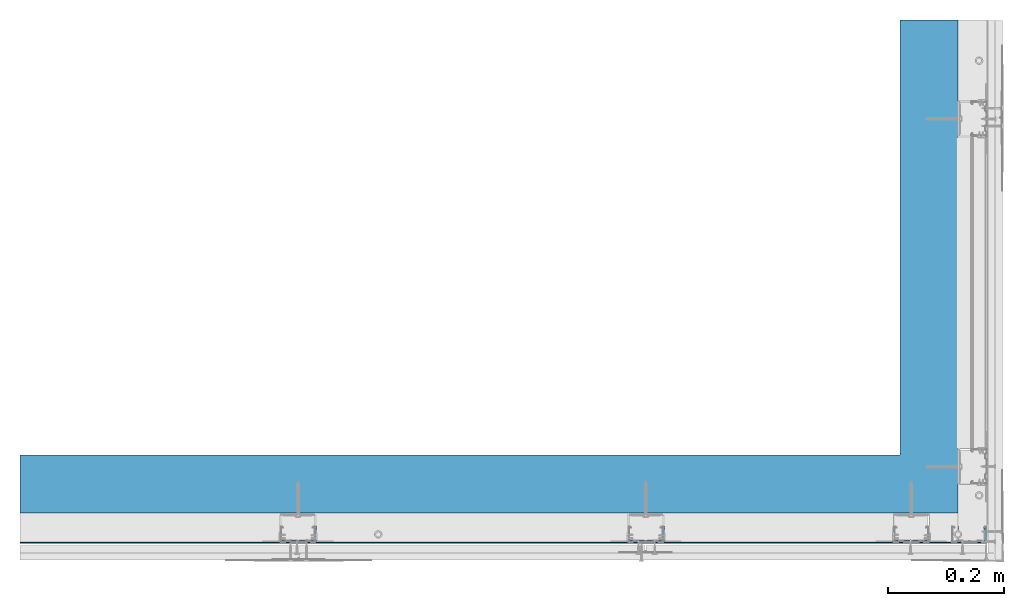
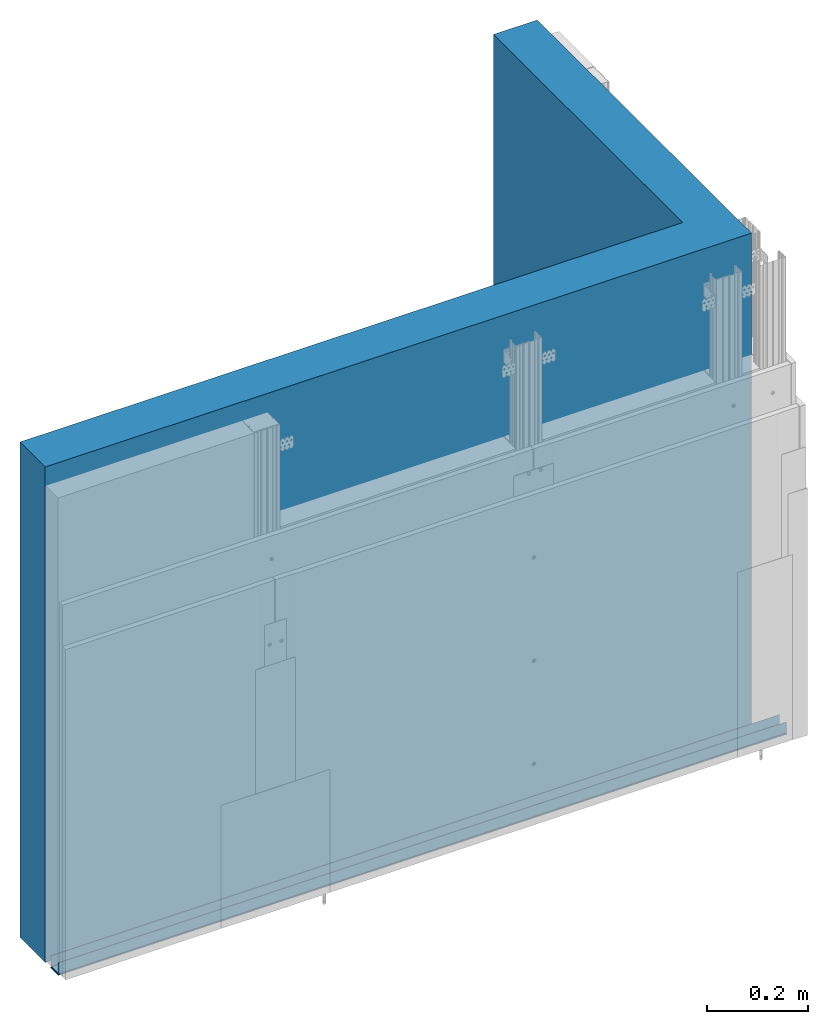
# One storey, part 1 of 56: 3 walls.
"""IFC2X3 building model written with IfcOpenShell, lengths in millimetres."""

from ifc_helpers import new_model, entity, si_unit, converted_unit, direction, frame, origin, origin_with_axes, place, context, project, spatial, faceted_brep, element, save


model = new_model("IFC2X3")

# Units and contexts
model_context = context("Model", 3, precision=1e-05, world=origin(), true_north=direction((0.0, 1.0, 0.0)))
ifc_project = project(units=[si_unit("LENGTHUNIT", "METRE", prefix="MILLI"), si_unit("AREAUNIT", "SQUARE_METRE"), si_unit("VOLUMEUNIT", "CUBIC_METRE"), converted_unit("PLANEANGLEUNIT", "DEGREE", entity("IfcPlaneAngleMeasure", 0.01745), si_unit("PLANEANGLEUNIT", "RADIAN"), dimensions=[0, 0, 0, 0, 0, 0, 0]), si_unit("SOLIDANGLEUNIT", "STERADIAN"), si_unit("MASSUNIT", "GRAM"), si_unit("TIMEUNIT", "SECOND"), si_unit("THERMODYNAMICTEMPERATUREUNIT", "DEGREE_CELSIUS"), si_unit("LUMINOUSINTENSITYUNIT", "LUMEN")], contexts=[model_context])

# Site, building, storey
site_placement = place(None, origin_with_axes())
site = spatial("IfcSite", under=ifc_project, at=site_placement, Name="Default Site", CompositionType="ELEMENT")
building_placement = place(site_placement, origin_with_axes())
building = spatial("IfcBuilding", under=site, at=building_placement, Name="Default Building", CompositionType="ELEMENT")
storey_placement = place(building_placement, origin_with_axes())
storey = spatial("IfcBuildingStorey", under=building, at=storey_placement, Name="Default Building Storey", CompositionType="ELEMENT", Elevation=0.0)

# Walls
wall_1_placement = place(storey_placement, frame((2351.114255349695, 5432.424146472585, 6.584025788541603), z_axis=(-7.620176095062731e-14, -6.858158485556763e-13, 1.0), x_axis=(-1.0, -9.714451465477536e-17, -7.62017609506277e-14)))
element("IfcWall", 1, at=wall_1_placement, inside=storey, Name="ŚCIANA", context=model_context, shape_type="Brep", body=[
    faceted_brep([(-1291.926362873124, 3310.28322372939, -4.200000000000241), (-1291.926362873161, 3310.283223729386, 1195.799999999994), (-1291.926362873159, 2559.407642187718, 1195.799999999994), (-1291.926362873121, 2559.407642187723, -4.200000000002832), (-1391.926362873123, 2559.407642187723, -4.200000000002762), (-1391.926362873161, 2559.407642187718, 1195.800000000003), (-1391.926362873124, 3410.28322372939, -4.20000000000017), (226.0891218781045, 3410.28322372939, -4.200000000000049), (226.0891218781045, 3310.283223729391, -4.200000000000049), (226.0891218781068, 3410.28322372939, 1195.799999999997), (-1391.926362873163, 3410.28322372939, 1195.8), (226.0891218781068, 3310.283223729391, 1195.799999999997)], [[[0, 1, 2, 3]], [[4, 3, 2, 5]], [[6, 7, 8, 0, 3, 4]], [[9, 10, 5, 2, 1, 11]], [[11, 1, 0, 8]], [[11, 8, 7, 9]], [[6, 10, 9, 7]], [[6, 4, 5, 10]]]),
])
wall_2_placement = place(storey_placement, frame((5286.482303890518, 3469.154591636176, -108.5909742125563), z_axis=(-6.965832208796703e-14, -6.858158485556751e-13, 1.0), x_axis=(-1.0, -1.761044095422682e-15, -8.335986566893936e-14)))
element("IfcWall", 2, at=wall_2_placement, inside=storey, Name="Profil RIGIPS UD30 ULTRASTIL®", context=model_context, shape_type="Brep", body=[
    faceted_brep([(3161.457170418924, 1469.916032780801, 140.9749999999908), (3161.457170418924, 1469.366032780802, 140.9749999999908), (3161.457170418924, 1469.366032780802, 114.774999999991), (3161.457170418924, 1469.375882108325, 114.6498524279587), (3161.457170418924, 1469.405187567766, 114.5277864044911), (3161.457170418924, 1469.453227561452, 114.4118076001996), (3161.457170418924, 1469.518819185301, 114.3047717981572), (3161.457170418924, 1469.600347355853, 114.2093145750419), (3161.457170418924, 1469.695804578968, 114.1277864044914), (3161.457170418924, 1469.80284038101, 114.0621947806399), (3161.457170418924, 1469.918819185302, 114.0141547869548), (3161.457170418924, 1470.04088520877, 113.9848493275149), (3161.457170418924, 1470.166032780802, 113.9749999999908), (3161.457170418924, 1472.016032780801, 113.9749999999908), (3161.457170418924, 1472.163550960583, 113.9887186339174), (3161.457170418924, 1472.3060097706, 114.0294040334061), (3161.457170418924, 1472.438523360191, 114.0956608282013), (3161.457170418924, 1472.556546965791, 114.1852166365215), (3161.457170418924, 1472.656032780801, 114.2949999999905), (3161.457170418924, 1473.676032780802, 115.6549999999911), (3161.457170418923, 1473.775518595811, 115.7647833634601), (3161.457170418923, 1473.893542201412, 115.8543391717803), (3161.457170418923, 1474.026055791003, 115.9205959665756), (3161.457170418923, 1474.16851460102, 115.9612813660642), (3161.457170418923, 1474.316032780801, 115.9749999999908), (3161.457170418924, 1493.616032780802, 115.9749999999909), (3161.457170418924, 1493.763550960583, 115.9612813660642), (3161.457170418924, 1493.9060097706, 115.9205959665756), (3161.457170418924, 1494.03852336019, 115.8543391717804), (3161.457170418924, 1494.156546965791, 115.7647833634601), (3161.457170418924, 1494.256032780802, 115.6549999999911), (3161.457170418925, 1495.276032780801, 114.2949999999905), (3161.457170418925, 1495.375518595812, 114.1852166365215), (3161.457170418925, 1495.493542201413, 114.0956608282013), (3161.457170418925, 1495.626055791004, 114.0294040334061), (3161.457170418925, 1495.76851460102, 113.9887186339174), (3161.457170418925, 1495.916032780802, 113.9749999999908), (3161.457170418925, 1497.766032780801, 113.9749999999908), (3161.457170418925, 1497.891180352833, 113.9848493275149), (3161.457170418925, 1498.013246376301, 114.0141547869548), (3161.457170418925, 1498.129225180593, 114.0621947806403), (3161.457170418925, 1498.236260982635, 114.127786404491), (3161.457170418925, 1498.33171820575, 114.2093145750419), (3161.457170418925, 1498.413246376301, 114.3047717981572), (3161.457170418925, 1498.478838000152, 114.4118076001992), (3161.457170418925, 1498.526877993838, 114.5277864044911), (3161.457170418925, 1498.556183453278, 114.6498524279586), (3161.457170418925, 1498.566032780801, 114.774999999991), (3161.457170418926, 1498.566032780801, 140.9749999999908), (3161.457170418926, 1498.016032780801, 140.9749999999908), (3161.457170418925, 1498.016032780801, 114.774999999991), (3161.457170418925, 1498.01295486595, 114.7358913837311), (3161.457170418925, 1498.003796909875, 114.6977457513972), (3161.457170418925, 1497.988784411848, 114.661502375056), (3161.457170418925, 1497.968287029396, 114.6280536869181), (3161.457170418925, 1497.942809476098, 114.5982233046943), (3161.457170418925, 1497.912979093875, 114.5727457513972), (3161.457170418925, 1497.879530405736, 114.5522483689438), (3161.457170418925, 1497.843287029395, 114.5372358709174), (3161.457170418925, 1497.805141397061, 114.528077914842), (3161.457170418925, 1497.766032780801, 114.524999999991), (3161.457170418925, 1495.916032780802, 114.524999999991), (3161.457170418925, 1495.86993334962, 114.5292870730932), (3161.457170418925, 1495.82541497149, 114.5420012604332), (3161.457170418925, 1495.784004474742, 114.562706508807), (3161.457170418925, 1495.747122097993, 114.5906926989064), (3161.457170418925, 1495.716032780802, 114.6249999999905), (3161.457170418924, 1494.696032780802, 115.984999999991), (3161.457170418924, 1494.528150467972, 116.1702594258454), (3161.457170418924, 1494.32898563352, 116.3213848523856), (3161.457170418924, 1494.105368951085, 116.4331931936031), (3161.457170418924, 1493.864969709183, 116.5018498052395), (3161.457170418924, 1493.616032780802, 116.5249999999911), (3161.457170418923, 1474.316032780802, 116.524999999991), (3161.457170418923, 1474.06709585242, 116.5018498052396), (3161.457170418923, 1473.826696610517, 116.4331931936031), (3161.457170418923, 1473.603079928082, 116.3213848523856), (3161.457170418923, 1473.403915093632, 116.1702594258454), (3161.457170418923, 1473.236032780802, 115.984999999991), (3161.457170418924, 1472.216032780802, 114.6249999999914), (3161.457170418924, 1472.184943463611, 114.5906926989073), (3161.457170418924, 1472.14806108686, 114.562706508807), (3161.457170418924, 1472.106650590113, 114.5420012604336), (3161.457170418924, 1472.062132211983, 114.5292870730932), (3161.457170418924, 1472.016032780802, 114.524999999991), (3161.457170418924, 1470.166032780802, 114.524999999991), (3161.457170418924, 1470.126924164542, 114.528077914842), (3161.457170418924, 1470.088778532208, 114.5372358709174), (3161.457170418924, 1470.052535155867, 114.5522483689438), (3161.457170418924, 1470.019086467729, 114.5727457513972), (3161.457170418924, 1469.989256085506, 114.5982233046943), (3161.457170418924, 1469.963778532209, 114.6280536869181), (3161.457170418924, 1469.943281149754, 114.661502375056), (3161.457170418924, 1469.928268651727, 114.6977457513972), (3161.457170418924, 1469.919110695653, 114.7358913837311), (3161.457170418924, 1469.916032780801, 114.774999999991), (1493.254973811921, 1469.366032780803, 114.7750000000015), (1493.254973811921, 1469.366032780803, 140.9750000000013), (1493.254973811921, 1469.916032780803, 140.9750000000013), (1493.254973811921, 1469.916032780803, 114.7750000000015), (1493.254973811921, 1469.919110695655, 114.7358913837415), (1493.254973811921, 1469.92826865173, 114.6977457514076), (1493.254973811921, 1469.943281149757, 114.6615023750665), (1493.254973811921, 1469.963778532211, 114.6280536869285), (1493.254973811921, 1469.989256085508, 114.5982233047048), (1493.254973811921, 1470.019086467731, 114.5727457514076), (1493.254973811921, 1470.052535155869, 114.5522483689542), (1493.254973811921, 1470.08877853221, 114.5372358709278), (1493.254973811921, 1470.126924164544, 114.5280779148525), (1493.254973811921, 1470.166032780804, 114.5250000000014), (1493.254973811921, 1472.016032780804, 114.5250000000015), (1493.254973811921, 1472.062132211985, 114.5292870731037), (1493.254973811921, 1472.106650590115, 114.542001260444), (1493.254973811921, 1472.148061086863, 114.5627065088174), (1493.254973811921, 1472.184943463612, 114.5906926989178), (1493.254973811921, 1472.216032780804, 114.6250000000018), (1493.254973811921, 1473.236032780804, 115.9850000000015), (1493.254973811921, 1473.403915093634, 116.1702594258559), (1493.254973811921, 1473.603079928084, 116.321384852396), (1493.254973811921, 1473.826696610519, 116.4331931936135), (1493.254973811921, 1474.067095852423, 116.50184980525), (1493.254973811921, 1474.316032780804, 116.5250000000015), (1493.254973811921, 1493.616032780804, 116.5250000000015), (1493.254973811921, 1493.864969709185, 116.50184980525), (1493.254973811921, 1494.105368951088, 116.4331931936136), (1493.254973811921, 1494.328985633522, 116.321384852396), (1493.254973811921, 1494.528150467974, 116.1702594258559), (1493.254973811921, 1494.696032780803, 115.9850000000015), (1493.254973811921, 1495.716032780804, 114.6250000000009), (1493.254973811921, 1495.747122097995, 114.5906926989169), (1493.254973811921, 1495.784004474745, 114.5627065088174), (1493.254973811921, 1495.825414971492, 114.5420012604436), (1493.254973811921, 1495.869933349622, 114.5292870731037), (1493.254973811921, 1495.916032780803, 114.5250000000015), (1493.254973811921, 1497.766032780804, 114.5250000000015), (1493.254973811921, 1497.805141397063, 114.5280779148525), (1493.254973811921, 1497.843287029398, 114.5372358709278), (1493.254973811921, 1497.879530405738, 114.5522483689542), (1493.254973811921, 1497.912979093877, 114.5727457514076), (1493.254973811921, 1497.9428094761, 114.5982233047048), (1493.254973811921, 1497.968287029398, 114.6280536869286), (1493.254973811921, 1497.98878441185, 114.6615023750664), (1493.254973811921, 1498.003796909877, 114.6977457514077), (1493.254973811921, 1498.012954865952, 114.7358913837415), (1493.254973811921, 1498.016032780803, 114.7750000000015), (1493.254973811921, 1498.016032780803, 140.9750000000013), (1493.254973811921, 1498.566032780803, 140.9750000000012), (1493.254973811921, 1498.566032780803, 114.7750000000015), (1493.254973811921, 1498.556183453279, 114.6498524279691), (1493.254973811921, 1498.52687799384, 114.5277864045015), (1493.254973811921, 1498.478838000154, 114.4118076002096), (1493.254973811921, 1498.413246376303, 114.3047717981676), (1493.254973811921, 1498.331718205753, 114.2093145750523), (1493.254973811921, 1498.236260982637, 114.1277864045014), (1493.254973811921, 1498.129225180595, 114.0621947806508), (1493.254973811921, 1498.013246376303, 114.0141547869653), (1493.254973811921, 1497.891180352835, 113.9848493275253), (1493.254973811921, 1497.766032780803, 113.9750000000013), (1493.254973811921, 1495.916032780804, 113.9750000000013), (1493.254973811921, 1495.768514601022, 113.9887186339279), (1493.254973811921, 1495.626055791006, 114.0294040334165), (1493.254973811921, 1495.493542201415, 114.0956608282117), (1493.254973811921, 1495.375518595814, 114.185216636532), (1493.254973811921, 1495.276032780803, 114.295000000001), (1493.254973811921, 1494.256032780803, 115.6550000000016), (1493.254973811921, 1494.156546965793, 115.7647833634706), (1493.254973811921, 1494.038523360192, 115.8543391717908), (1493.254973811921, 1493.906009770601, 115.920595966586), (1493.254973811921, 1493.763550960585, 115.9612813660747), (1493.254973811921, 1493.616032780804, 115.9750000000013), (1493.254973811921, 1474.316032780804, 115.9750000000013), (1493.254973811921, 1474.168514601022, 115.9612813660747), (1493.254973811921, 1474.026055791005, 115.920595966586), (1493.254973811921, 1473.893542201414, 115.8543391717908), (1493.254973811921, 1473.775518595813, 115.7647833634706), (1493.254973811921, 1473.676032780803, 115.6550000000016), (1493.254973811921, 1472.656032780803, 114.295000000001), (1493.254973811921, 1472.556546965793, 114.185216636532), (1493.254973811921, 1472.438523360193, 114.0956608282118), (1493.254973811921, 1472.306009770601, 114.0294040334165), (1493.254973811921, 1472.163550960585, 113.9887186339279), (1493.254973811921, 1472.016032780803, 113.9750000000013), (1493.254973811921, 1470.166032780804, 113.9750000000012), (1493.254973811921, 1470.040885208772, 113.9848493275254), (1493.254973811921, 1469.918819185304, 114.0141547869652), (1493.254973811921, 1469.802840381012, 114.0621947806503), (1493.254973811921, 1469.69580457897, 114.1277864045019), (1493.254973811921, 1469.600347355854, 114.2093145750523), (1493.254973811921, 1469.518819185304, 114.3047717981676), (1493.254973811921, 1469.453227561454, 114.4118076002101), (1493.254973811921, 1469.405187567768, 114.5277864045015), (1493.254973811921, 1469.375882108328, 114.6498524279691)], [[[0, 1, 2, 3, 4, 5, 6, 7, 8, 9, 10, 11, 12, 13, 14, 15, 16, 17, 18, 19, 20, 21, 22, 23, 24, 25, 26, 27, 28, 29, 30, 31, 32, 33, 34, 35, 36, 37, 38, 39, 40, 41, 42, 43, 44, 45, 46, 47, 48, 49, 50, 51, 52, 53, 54, 55, 56, 57, 58, 59, 60, 61, 62, 63, 64, 65, 66, 67, 68, 69, 70, 71, 72, 73, 74, 75, 76, 77, 78, 79, 80, 81, 82, 83, 84, 85, 86, 87, 88, 89, 90, 91, 92, 93, 94, 95]], [[96, 97, 98, 99, 100, 101, 102, 103, 104, 105, 106, 107, 108, 109, 110, 111, 112, 113, 114, 115, 116, 117, 118, 119, 120, 121, 122, 123, 124, 125, 126, 127, 128, 129, 130, 131, 132, 133, 134, 135, 136, 137, 138, 139, 140, 141, 142, 143, 144, 145, 146, 147, 148, 149, 150, 151, 152, 153, 154, 155, 156, 157, 158, 159, 160, 161, 162, 163, 164, 165, 166, 167, 168, 169, 170, 171, 172, 173, 174, 175, 176, 177, 178, 179, 180, 181, 182, 183, 184, 185, 186, 187, 188, 189, 190, 191]], [[23, 171, 170, 24]], [[22, 172, 171, 23]], [[175, 174, 20, 19]], [[172, 22, 21, 173]], [[20, 174, 173, 21]], [[24, 170, 169, 25]], [[29, 165, 164, 30]], [[165, 29, 28, 166]], [[27, 167, 166, 28]], [[169, 168, 26, 25]], [[26, 168, 167, 27]], [[30, 164, 163, 31]], [[35, 159, 158, 36]], [[34, 160, 159, 35]], [[33, 32, 162, 161]], [[161, 160, 34, 33]], [[163, 162, 32, 31]], [[36, 158, 157, 37]], [[46, 45, 149, 148]], [[148, 147, 47, 46]], [[44, 150, 149, 45]], [[43, 42, 152, 151]], [[151, 150, 44, 43]], [[41, 40, 154, 153]], [[153, 152, 42, 41]], [[39, 155, 154, 40]], [[38, 37, 157, 156]], [[156, 155, 39, 38]], [[47, 147, 146, 48]], [[48, 146, 145, 49]], [[49, 145, 144, 50]], [[134, 60, 59, 135]], [[58, 136, 135, 59]], [[57, 137, 136, 58]], [[137, 57, 56, 138]], [[55, 139, 138, 56]], [[139, 55, 54, 140]], [[53, 141, 140, 54]], [[52, 142, 141, 53]], [[142, 52, 51, 143]], [[50, 144, 143, 51]], [[60, 134, 133, 61]], [[65, 129, 128, 66]], [[129, 65, 64, 130]], [[63, 131, 130, 64]], [[133, 132, 62, 61]], [[62, 132, 131, 63]], [[66, 128, 127, 67]], [[71, 123, 122, 72]], [[70, 69, 125, 124]], [[124, 123, 71, 70]], [[68, 126, 125, 69]], [[127, 126, 68, 67]], [[72, 122, 121, 73]], [[77, 117, 116, 78]], [[76, 118, 117, 77]], [[75, 74, 120, 119]], [[119, 118, 76, 75]], [[121, 120, 74, 73]], [[78, 116, 115, 79]], [[83, 111, 110, 84]], [[82, 112, 111, 83]], [[115, 114, 80, 79]], [[112, 82, 81, 113]], [[80, 114, 113, 81]], [[84, 110, 109, 85]], [[99, 95, 94, 100]], [[93, 101, 100, 94]], [[92, 102, 101, 93]], [[102, 92, 91, 103]], [[90, 104, 103, 91]], [[104, 90, 89, 105]], [[88, 106, 105, 89]], [[87, 107, 106, 88]], [[107, 87, 86, 108]], [[85, 109, 108, 86]], [[95, 99, 98, 0]], [[0, 98, 97, 1]], [[1, 97, 96, 2]], [[11, 10, 184, 183]], [[183, 182, 12, 11]], [[9, 185, 184, 10]], [[6, 5, 189, 188]], [[7, 6, 188, 187]], [[8, 7, 187, 186]], [[186, 185, 9, 8]], [[4, 190, 189, 5]], [[3, 2, 96, 191]], [[191, 190, 4, 3]], [[12, 182, 181, 13]], [[17, 177, 176, 18]], [[16, 15, 179, 178]], [[178, 177, 17, 16]], [[14, 180, 179, 15]], [[181, 180, 14, 13]], [[18, 176, 175, 19]]]),
])
wall_3_placement = place(storey_placement, frame((5928.319339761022, 3469.154591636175, -108.5909742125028), z_axis=(-6.96583220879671e-14, -6.858158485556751e-13, 1.0), x_axis=(-1.0, -1.761044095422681e-15, -8.335986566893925e-14)))
element("IfcWall", 3, at=wall_3_placement, inside=storey, Name="Taśma uszczelniająca piankowa RIGIPS", context=model_context, shape_type="Brep", body=[
    faceted_brep([(2134.726357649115, 1498.9660327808, 113.9750000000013), (2134.726357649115, 1498.9660327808, 110.9750000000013), (2134.726357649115, 1468.966032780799, 110.9750000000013), (2134.726357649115, 1468.9660327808, 113.9750000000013), (3803.294206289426, 1498.966032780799, 110.9750000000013), (3803.294206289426, 1498.966032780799, 113.9750000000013), (3803.294206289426, 1468.966032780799, 113.9750000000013), (3803.294206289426, 1468.966032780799, 110.9750000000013)], [[[0, 1, 2, 3]], [[4, 5, 6, 7]], [[5, 0, 3, 6]], [[6, 3, 2, 7]], [[7, 2, 1, 4]], [[4, 1, 0, 5]]]),
])

save(model, "model.ifc")
